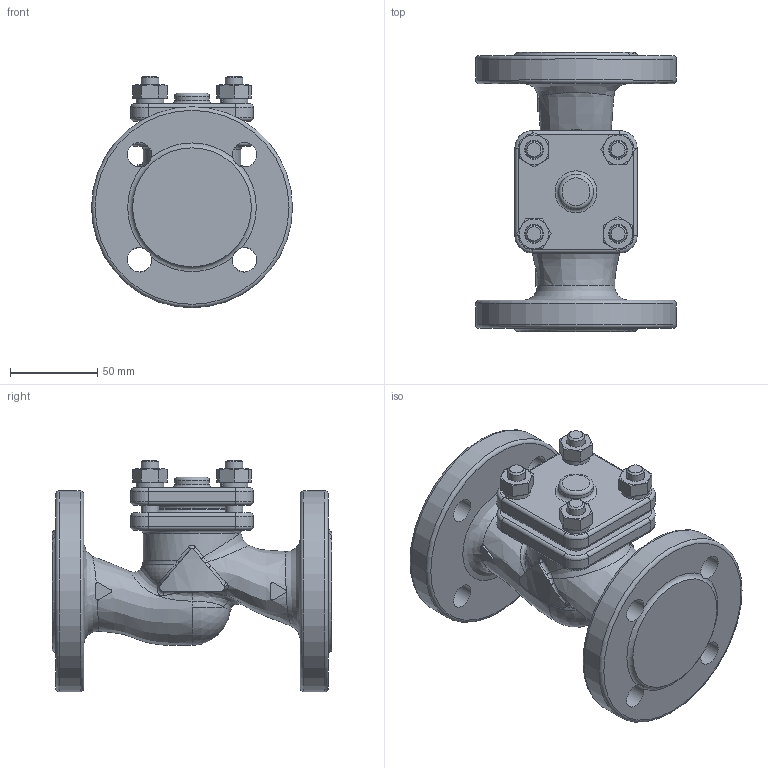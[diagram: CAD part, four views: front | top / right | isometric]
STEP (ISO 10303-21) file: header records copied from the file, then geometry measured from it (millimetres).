
FILE_DESCRIPTION(/* description */ (''),/* implementation_level */ '2;1');
FILE_NAME(/* name */ 'ZV226_DN25.stp',/* time_stamp */ '2012-11-09T09:12:26+01:00',/* author */ (''),/* organization */ ('LDM'),/* preprocessor_version */ 'ST-DEVELOPER v11',/* originating_system */ 'SIEMENS PLM Software NX 7.0',/* authorisation */ '');
FILE_SCHEMA (('CONFIG_CONTROL_DESIGN'));
Length unit declared in the file: millimetre
Products named in the file (1): adam1FBC7inu
Bounding box: 115 x 160 x 132.5 mm (x, y, z)
Volume: 689087.6 mm3; surface area: 96185.9 mm2
Topology: 1 solids, 1 shells, 285 faces, 742 edges, 453 vertices
Faces by surface type: plane 82, cylinder 66, cone 60, torus 42, bspline 34, sphere 1
Full cylindrical faces by diameter (mm): 10 x8, 12 x4, 14 x8, 20 x1, 48 x1, 115 x2
Entity records: 12160 total; most frequent: CARTESIAN_POINT 5923, ORIENTED_EDGE 1278, DIRECTION 1223, EDGE_CURVE 639, AXIS2_PLACEMENT_3D 547, VERTEX_POINT 406, EDGE_LOOP 373, ADVANCED_FACE 284
